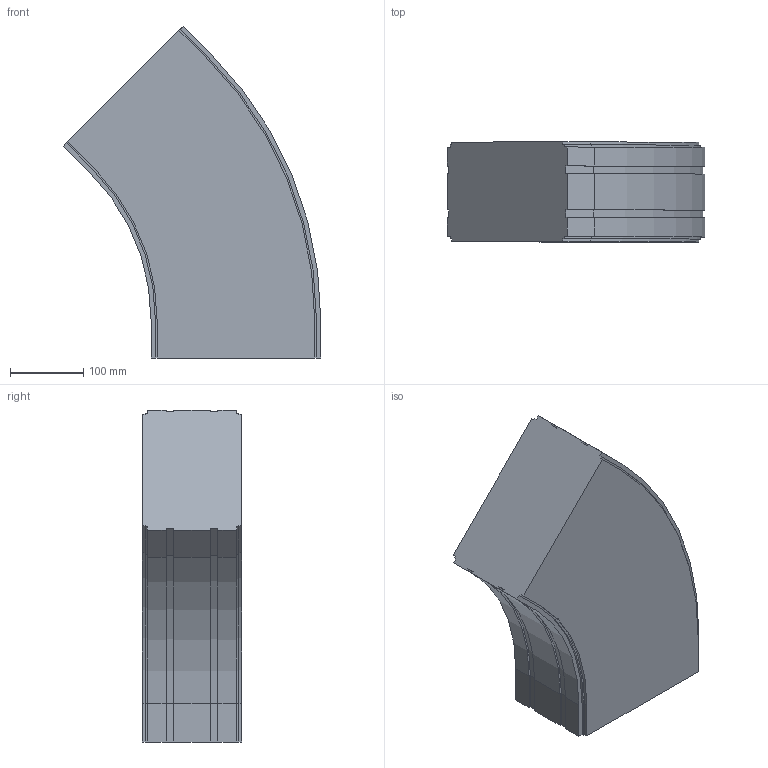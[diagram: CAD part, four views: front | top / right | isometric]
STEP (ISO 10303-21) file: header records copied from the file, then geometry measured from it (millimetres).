
FILE_DESCRIPTION (( 'STEP AP214' ), '1' );
FILE_NAME ('FS-MTC2-150-INOX horizontaalbocht.230 45°.STEP', '2017-02-08T12:40:24', ( '' ), ( '' ), 'SwSTEP 2.0', 'SolidWorks 2016', '' );
FILE_SCHEMA (( 'AUTOMOTIVE_DESIGN' ));
Length unit declared in the file: millimetre
Products named in the file (1): FS-MTC2-150-INOX horizontaalbocht.230 45°
Bounding box: 352.73 x 136.5 x 454.67 mm (x, y, z)
Volume: 13172687.7 mm3; surface area: 380575.6 mm2
Topology: 1 solids, 1 shells, 74 faces, 216 edges, 144 vertices
Faces by surface type: plane 56, cylinder 18
Entity records: 2470 total; most frequent: CARTESIAN_POINT 435, ORIENTED_EDGE 432, DIRECTION 402, EDGE_CURVE 216, VECTOR 180, LINE 180, VERTEX_POINT 144, AXIS2_PLACEMENT_3D 111
